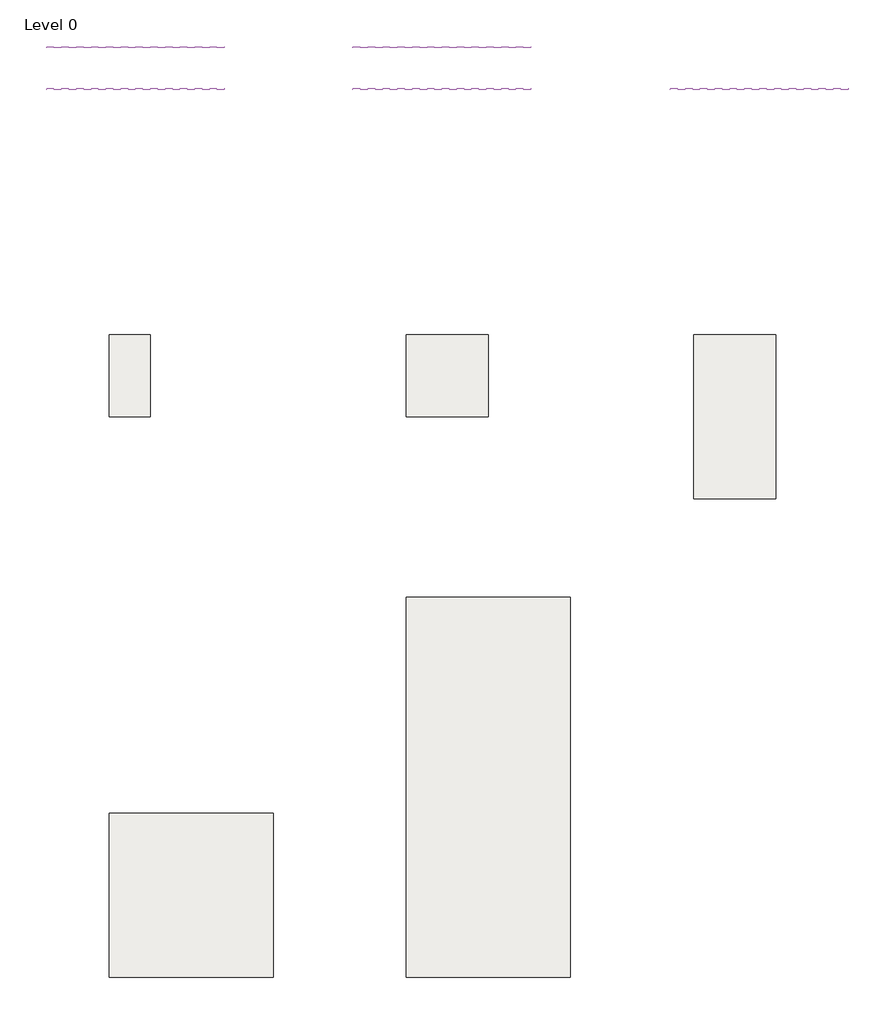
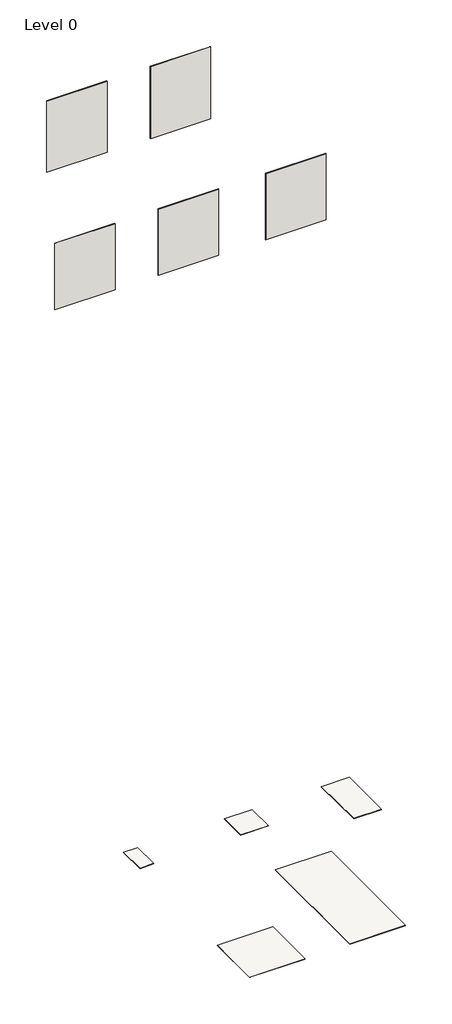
# One storey: 5 slabs, 5 walls.
"""IFC4 building model written with IfcOpenShell, lengths in millimetres."""

from ifc_helpers import new_model, si_unit, frame, origin, place, context, project, spatial, polyline, outline, extrude, element, save

model = new_model("IFC4")

# Units and contexts
model_context = context("Model", 3, world=origin())
ifc_project = project(units=[si_unit("LENGTHUNIT", "METRE", prefix="MILLI")], contexts=[model_context])

# Site, building, storey
site = spatial("IfcSite", under=ifc_project)
building = spatial("IfcBuilding", under=site)
storey = spatial("IfcBuildingStorey", under=building, Name="Level 0", Elevation=0.0)

# Slabs
placement = place(None, origin())
element("IfcSlab", 1, ObjectType="Floor_Tiles_Refin-Play-White-30x60 OC61", at=placement, inside=storey, context=model_context, shape_type="SweptSolid", body=[
    extrude(outline(polyline([(6674.3752062, 6039.4623743), (6674.3752062, 5439.4623743), (6374.3752062, 5439.4623743), (6374.3752062, 6039.4623743), (6674.3752062, 6039.4623743)])), frame((0.0, 0.0, -10.0), z_axis=(0.0, 0.0, 1.0), x_axis=(1.0, 0.0, 0.0)), (0.0, 0.0, 1.0), 10.0),
])
element("IfcSlab", 2, ObjectType="Floor_Tiles_Refin-Play-White-120x120 OC67", at=placement, inside=storey, context=model_context, shape_type="SweptSolid", body=[
    extrude(outline(polyline([(7574.3752062, 2539.4623743), (7574.3752062, 1339.4623743), (6374.3752062, 1339.4623743), (6374.3752062, 2539.4623743), (7574.3752062, 2539.4623743)])), frame((0.0, 0.0, -10.0), z_axis=(0.0, 0.0, 1.0), x_axis=(1.0, 0.0, 0.0)), (0.0, 0.0, 1.0), 10.0),
])
element("IfcSlab", 3, ObjectType="Floor_Tiles_Refin-Play-White-60x120 OC73", at=placement, inside=storey, context=model_context, shape_type="SweptSolid", body=[
    extrude(outline(polyline([(11247.3924055, 6039.4623743), (11247.3924055, 4839.4623743), (10647.3924055, 4839.4623743), (10647.3924055, 6039.4623743), (11247.3924055, 6039.4623743)])), frame((0.0, 0.0, -10.0), z_axis=(0.0, 0.0, 1.0), x_axis=(1.0, 0.0, 0.0)), (0.0, 0.0, 1.0), 10.0),
])
element("IfcSlab", 4, ObjectType="Floor_Tiles_Refin-Play-White-60x60 OC55", at=placement, inside=storey, context=model_context, shape_type="SweptSolid", body=[
    extrude(outline(polyline([(9147.3924055, 6038.4192064), (9147.3924055, 5438.4192064), (8547.3924055, 5438.4192064), (8547.3924055, 6038.4192064), (9147.3924055, 6038.4192064)])), frame((0.0, 0.0, -10.0), z_axis=(0.0, 0.0, 1.0), x_axis=(1.0, 0.0, 0.0)), (0.0, 0.0, 1.0), 10.0),
])
element("IfcSlab", 5, ObjectType="Floor_Tiles_Refin-Play-White-120x278 OC80", at=placement, inside=storey, context=model_context, shape_type="SweptSolid", body=[
    extrude(outline(polyline([(9747.3924055, 4119.4623743), (9747.3924055, 1339.4623743), (8547.3924055, 1339.4623743), (8547.3924055, 4119.4623743), (9747.3924055, 4119.4623743)])), frame((0.0, 0.0, -10.0), z_axis=(0.0, 0.0, 1.0), x_axis=(1.0, 0.0, 0.0)), (0.0, 0.0, 1.0), 10.0),
])

# Walls
element("IfcWall", 6, ObjectType="Wall_Tiles_Refin-Play-White-60x60 OC55", at=placement, inside=storey, context=model_context, shape_type="SweptSolid", body=[
    extrude(outline(polyline([(9457.3752062, 8132.3838631), (8157.3752062, 8132.3838631), (8157.3752062, 8142.3838631), (9457.3752062, 8142.3838631), (9457.3752062, 8132.3838631)])), frame((0.0, 0.0, 14387.6770443), z_axis=(0.0, 0.0, 1.0), x_axis=(1.0, 0.0, 0.0)), (0.0, 0.0, 1.0), 1641.7417352),
])
element("IfcWall", 7, ObjectType="Wall_Tiles_Refin-Play-White-30x60 OC61", at=placement, inside=storey, context=model_context, shape_type="SweptSolid", body=[
    extrude(outline(polyline([(7217.3752062, 8132.3838631), (5917.3752062, 8132.3838631), (5917.3752062, 8142.3838631), (7217.3752062, 8142.3838631), (7217.3752062, 8132.3838631)])), frame((0.0, 0.0, 14403.7267346), z_axis=(0.0, 0.0, 1.0), x_axis=(1.0, 0.0, 0.0)), (0.0, 0.0, 1.0), 1625.692045),
])
element("IfcWall", 8, ObjectType="Wall_Tiles_Refin-Play-White-60x120 OC73", at=placement, inside=storey, context=model_context, shape_type="SweptSolid", body=[
    extrude(outline(polyline([(7217.3752062, 7827.3838631), (5917.3752062, 7827.3838631), (5917.3752062, 7837.3838631), (7217.3752062, 7837.3838631), (7217.3752062, 7827.3838631)])), frame((0.0, 0.0, 11452.5436262), z_axis=(0.0, 0.0, 1.0), x_axis=(1.0, 0.0, 0.0)), (0.0, 0.0, 1.0), 1513.1985566),
])
element("IfcWall", 9, ObjectType="Wall_Tiles_Refin-Play-White-120x120 OC67", at=placement, inside=storey, context=model_context, shape_type="SweptSolid", body=[
    extrude(outline(polyline([(9457.3752062, 7827.3838631), (8157.3752062, 7827.3838631), (8157.3752062, 7837.3838631), (9457.3752062, 7837.3838631), (9457.3752062, 7827.3838631)])), frame((0.0, 0.0, 11452.5436262), z_axis=(0.0, 0.0, 1.0), x_axis=(1.0, 0.0, 0.0)), (0.0, 0.0, 1.0), 1513.1985566),
])
element("IfcWall", 10, ObjectType="Wall_Tiles_Refin-Play-White-120x278 OC80", at=placement, inside=storey, context=model_context, shape_type="SweptSolid", body=[
    extrude(outline(polyline([(11777.3752062, 7827.3838631), (10477.3752062, 7827.3838631), (10477.3752062, 7837.3838631), (11777.3752062, 7837.3838631), (11777.3752062, 7827.3838631)])), frame((0.0, 0.0, 11452.5436262), z_axis=(0.0, 0.0, 1.0), x_axis=(1.0, 0.0, 0.0)), (0.0, 0.0, 1.0), 1513.1985566),
])

save(model, "model.ifc")
